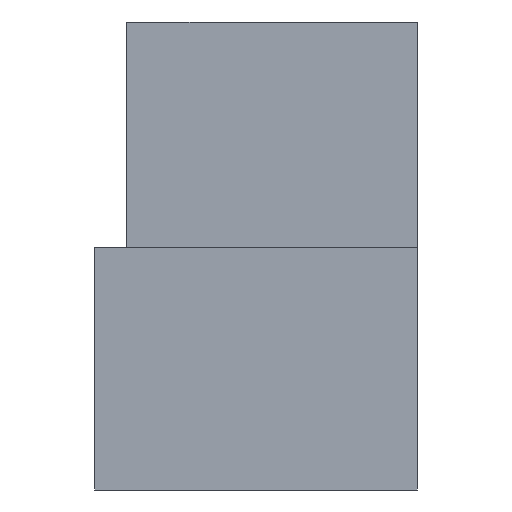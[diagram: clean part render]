
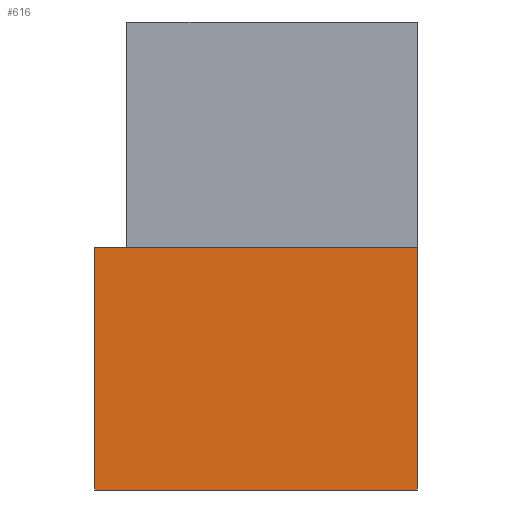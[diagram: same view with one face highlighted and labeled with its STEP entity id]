
A CAD part, left-side view. The second image highlights one B-rep face of the part: STEP entity #616.
In plain terms, the highlighted planar face has unit normal (-1, 0, 0).
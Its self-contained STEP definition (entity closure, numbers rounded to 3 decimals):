
#24 = VERTEX_POINT('',#25);
#25 = CARTESIAN_POINT('',(-20.,0.,3.));
#32 = PLANE('',#33);
#33 = AXIS2_PLACEMENT_3D('',#34,#35,#36);
#34 = CARTESIAN_POINT('',(0.,26.,3.));
#35 = DIRECTION('',(0.,0.,-1.));
#36 = DIRECTION('',(1.,0.,0.));
#44 = PLANE('',#45);
#45 = AXIS2_PLACEMENT_3D('',#46,#47,#48);
#46 = CARTESIAN_POINT('',(31.,0.,3.));
#47 = DIRECTION('',(0.,1.,0.));
#48 = DIRECTION('',(-1.,-0.,0.));
#56 = EDGE_CURVE('',#57,#24,#59,.T.);
#57 = VERTEX_POINT('',#58);
#58 = CARTESIAN_POINT('',(-20.,4.,3.));
#59 = SURFACE_CURVE('',#60,(#64,#71),.PCURVE_S1.);
#60 = LINE('',#61,#62);
#61 = CARTESIAN_POINT('',(-20.,15.,3.));
#62 = VECTOR('',#63,1.);
#63 = DIRECTION('',(0.,-1.,0.));
#64 = PCURVE('',#32,#65);
#65 = DEFINITIONAL_REPRESENTATION('',(#66),#70);
#66 = LINE('',#67,#68);
#67 = CARTESIAN_POINT('',(-20.,11.));
#68 = VECTOR('',#69,1.);
#69 = DIRECTION('',(0.,1.));
#70 = ( GEOMETRIC_REPRESENTATION_CONTEXT(2) 
PARAMETRIC_REPRESENTATION_CONTEXT() REPRESENTATION_CONTEXT('2D SPACE',''
  ) );
#71 = PCURVE('',#72,#77);
#72 = PLANE('',#73);
#73 = AXIS2_PLACEMENT_3D('',#74,#75,#76);
#74 = CARTESIAN_POINT('',(-20.,4.,7.));
#75 = DIRECTION('',(1.,0.,0.));
#76 = DIRECTION('',(0.,0.,-1.));
#77 = DEFINITIONAL_REPRESENTATION('',(#78),#82);
#78 = LINE('',#79,#80);
#79 = CARTESIAN_POINT('',(4.,11.));
#80 = VECTOR('',#81,1.);
#81 = DIRECTION('',(0.,-1.));
#82 = ( GEOMETRIC_REPRESENTATION_CONTEXT(2) 
PARAMETRIC_REPRESENTATION_CONTEXT() REPRESENTATION_CONTEXT('2D SPACE',''
  ) );
#100 = PLANE('',#101);
#101 = AXIS2_PLACEMENT_3D('',#102,#103,#104);
#102 = CARTESIAN_POINT('',(-20.,4.,7.));
#103 = DIRECTION('',(0.,-1.,0.));
#104 = DIRECTION('',(0.,0.,-1.));
#273 = VERTEX_POINT('',#274);
#274 = CARTESIAN_POINT('',(-20.,0.,0.)
  );
#288 = PLANE('',#289);
#289 = AXIS2_PLACEMENT_3D('',#290,#291,#292);
#290 = CARTESIAN_POINT('',(-20.,4.,0.));
#291 = DIRECTION('',(0.,0.,-1.));
#292 = DIRECTION('',(1.,0.,0.));
#300 = EDGE_CURVE('',#24,#273,#301,.T.);
#301 = SURFACE_CURVE('',#302,(#306,#313),.PCURVE_S1.);
#302 = LINE('',#303,#304);
#303 = CARTESIAN_POINT('',(-20.,0.,7.));
#304 = VECTOR('',#305,1.);
#305 = DIRECTION('',(0.,0.,-1.));
#306 = PCURVE('',#44,#307);
#307 = DEFINITIONAL_REPRESENTATION('',(#308),#312);
#308 = LINE('',#309,#310);
#309 = CARTESIAN_POINT('',(51.,4.));
#310 = VECTOR('',#311,1.);
#311 = DIRECTION('',(0.,-1.));
#312 = ( GEOMETRIC_REPRESENTATION_CONTEXT(2) 
PARAMETRIC_REPRESENTATION_CONTEXT() REPRESENTATION_CONTEXT('2D SPACE',''
  ) );
#313 = PCURVE('',#72,#314);
#314 = DEFINITIONAL_REPRESENTATION('',(#315),#319);
#315 = LINE('',#316,#317);
#316 = CARTESIAN_POINT('',(0.,-4.));
#317 = VECTOR('',#318,1.);
#318 = DIRECTION('',(1.,0.));
#319 = ( GEOMETRIC_REPRESENTATION_CONTEXT(2) 
PARAMETRIC_REPRESENTATION_CONTEXT() REPRESENTATION_CONTEXT('2D SPACE',''
  ) );
#573 = EDGE_CURVE('',#57,#574,#576,.T.);
#574 = VERTEX_POINT('',#575);
#575 = CARTESIAN_POINT('',(-20.,4.,0.));
#576 = SURFACE_CURVE('',#577,(#581,#588),.PCURVE_S1.);
#577 = LINE('',#578,#579);
#578 = CARTESIAN_POINT('',(-20.,4.,7.));
#579 = VECTOR('',#580,1.);
#580 = DIRECTION('',(0.,0.,-1.));
#581 = PCURVE('',#100,#582);
#582 = DEFINITIONAL_REPRESENTATION('',(#583),#587);
#583 = LINE('',#584,#585);
#584 = CARTESIAN_POINT('',(0.,0.));
#585 = VECTOR('',#586,1.);
#586 = DIRECTION('',(1.,0.));
#587 = ( GEOMETRIC_REPRESENTATION_CONTEXT(2) 
PARAMETRIC_REPRESENTATION_CONTEXT() REPRESENTATION_CONTEXT('2D SPACE',''
  ) );
#588 = PCURVE('',#72,#589);
#589 = DEFINITIONAL_REPRESENTATION('',(#590),#594);
#590 = LINE('',#591,#592);
#591 = CARTESIAN_POINT('',(0.,0.));
#592 = VECTOR('',#593,1.);
#593 = DIRECTION('',(1.,0.));
#594 = ( GEOMETRIC_REPRESENTATION_CONTEXT(2) 
PARAMETRIC_REPRESENTATION_CONTEXT() REPRESENTATION_CONTEXT('2D SPACE',''
  ) );
#616 = ADVANCED_FACE('',(#617),#72,.F.);
#617 = FACE_BOUND('',#618,.F.);
#618 = EDGE_LOOP('',(#619,#620,#621,#622));
#619 = ORIENTED_EDGE('',*,*,#573,.F.);
#620 = ORIENTED_EDGE('',*,*,#56,.T.);
#621 = ORIENTED_EDGE('',*,*,#300,.T.);
#622 = ORIENTED_EDGE('',*,*,#623,.F.);
#623 = EDGE_CURVE('',#574,#273,#624,.T.);
#624 = SURFACE_CURVE('',#625,(#629,#636),.PCURVE_S1.);
#625 = LINE('',#626,#627);
#626 = CARTESIAN_POINT('',(-20.,4.,0.));
#627 = VECTOR('',#628,1.);
#628 = DIRECTION('',(0.,-1.,0.));
#629 = PCURVE('',#72,#630);
#630 = DEFINITIONAL_REPRESENTATION('',(#631),#635);
#631 = LINE('',#632,#633);
#632 = CARTESIAN_POINT('',(7.,0.));
#633 = VECTOR('',#634,1.);
#634 = DIRECTION('',(0.,-1.));
#635 = ( GEOMETRIC_REPRESENTATION_CONTEXT(2) 
PARAMETRIC_REPRESENTATION_CONTEXT() REPRESENTATION_CONTEXT('2D SPACE',''
  ) );
#636 = PCURVE('',#288,#637);
#637 = DEFINITIONAL_REPRESENTATION('',(#638),#642);
#638 = LINE('',#639,#640);
#639 = CARTESIAN_POINT('',(0.,0.));
#640 = VECTOR('',#641,1.);
#641 = DIRECTION('',(0.,1.));
#642 = ( GEOMETRIC_REPRESENTATION_CONTEXT(2) 
PARAMETRIC_REPRESENTATION_CONTEXT() REPRESENTATION_CONTEXT('2D SPACE',''
  ) );
